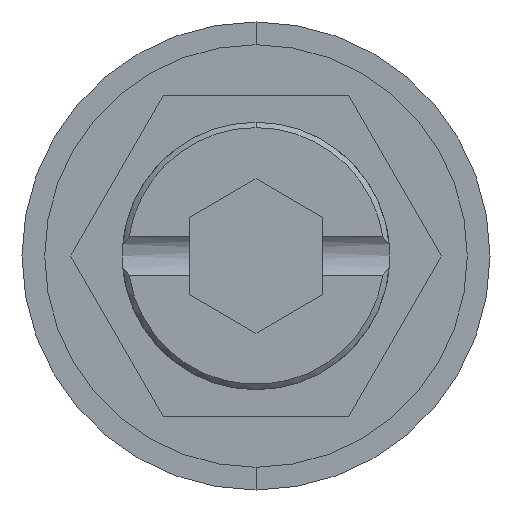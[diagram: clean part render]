
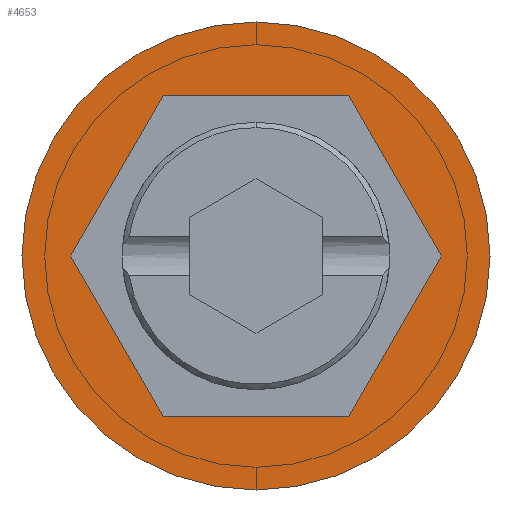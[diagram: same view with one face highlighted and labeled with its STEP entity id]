
A CAD part, front view. The second image highlights one B-rep face of the part: STEP entity #4653.
In plain terms, the highlighted planar face has unit normal (0, -1, 0).
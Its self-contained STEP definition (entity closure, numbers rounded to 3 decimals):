
#229 = EDGE_CURVE ( 'NONE', #4677, #525, #617, .T. ) ;
#328 = DIRECTION ( 'NONE',  ( 0., -1., 0. ) ) ;
#341 = CARTESIAN_POINT ( 'NONE',  ( 6.928, 0., 0. ) ) ;
#351 = EDGE_CURVE ( 'NONE', #2325, #5158, #1243, .T. ) ;
#445 = VECTOR ( 'NONE', #5753, 1000. ) ;
#525 = VERTEX_POINT ( 'NONE', #1136 ) ;
#579 = EDGE_CURVE ( 'NONE', #2489, #3838, #940, .T. ) ;
#606 = CARTESIAN_POINT ( 'NONE',  ( 0., 0., 0. ) ) ;
#612 = DIRECTION ( 'NONE',  ( 0., -1., 0. ) ) ;
#617 = CIRCLE ( 'NONE', #709, 8.75 ) ;
#618 = DIRECTION ( 'NONE',  ( 0., 0., -1. ) ) ;
#626 = DIRECTION ( 'NONE',  ( -0.5, 0., -0.866 ) ) ;
#699 = CARTESIAN_POINT ( 'NONE',  ( -3.464, 0., 6. ) ) ;
#709 = AXIS2_PLACEMENT_3D ( 'NONE', #606, #612, #618 ) ;
#728 = FACE_BOUND ( 'NONE', #2286, .T. ) ;
#757 = ORIENTED_EDGE ( 'NONE', *, *, #2624, .F. ) ;
#940 = LINE ( 'NONE', #1380, #1081 ) ;
#1043 = AXIS2_PLACEMENT_3D ( 'NONE', #3083, #328, #3539 ) ;
#1081 = VECTOR ( 'NONE', #1386, 1000. ) ;
#1136 = CARTESIAN_POINT ( 'NONE',  ( 0., 0., 8.75 ) ) ;
#1175 = AXIS2_PLACEMENT_3D ( 'NONE', #1197, #1671, #4821 ) ;
#1197 = CARTESIAN_POINT ( 'NONE',  ( 0., 0., 0. ) ) ;
#1243 = LINE ( 'NONE', #699, #5754 ) ;
#1277 = ORIENTED_EDGE ( 'NONE', *, *, #579, .F. ) ;
#1380 = CARTESIAN_POINT ( 'NONE',  ( 3.464, 0., -6. ) ) ;
#1386 = DIRECTION ( 'NONE',  ( 0.5, 0., 0.866 ) ) ;
#1528 = CARTESIAN_POINT ( 'NONE',  ( 3.464, 0., 6. ) ) ;
#1633 = EDGE_LOOP ( 'NONE', ( #2647, #4822 ) ) ;
#1643 = ORIENTED_EDGE ( 'NONE', *, *, #4829, .F. ) ;
#1671 = DIRECTION ( 'NONE',  ( 0., -1., 0. ) ) ;
#1772 = EDGE_CURVE ( 'NONE', #5158, #3786, #2891, .T. ) ;
#1987 = DIRECTION ( 'NONE',  ( -1., 0., 0. ) ) ;
#2233 = VECTOR ( 'NONE', #1987, 1000. ) ;
#2286 = EDGE_LOOP ( 'NONE', ( #5507, #4475, #3566, #757, #1643, #1277 ) ) ;
#2302 = CARTESIAN_POINT ( 'NONE',  ( -3.464, 0., -6. ) ) ;
#2325 = VERTEX_POINT ( 'NONE', #5553 ) ;
#2440 = CARTESIAN_POINT ( 'NONE',  ( 3.464, 0., -6. ) ) ;
#2489 = VERTEX_POINT ( 'NONE', #2440 ) ;
#2596 = CARTESIAN_POINT ( 'NONE',  ( 0., 0., -8.75 ) ) ;
#2624 = EDGE_CURVE ( 'NONE', #5024, #2325, #5528, .T. ) ;
#2647 = ORIENTED_EDGE ( 'NONE', *, *, #229, .T. ) ;
#2776 = CARTESIAN_POINT ( 'NONE',  ( -6.928, 0., 0. ) ) ;
#2884 = LINE ( 'NONE', #341, #445 ) ;
#2891 = LINE ( 'NONE', #4098, #4970 ) ;
#3083 = CARTESIAN_POINT ( 'NONE',  ( 0., 0., 0. ) ) ;
#3154 = EDGE_CURVE ( 'NONE', #525, #4677, #3380, .T. ) ;
#3316 = FACE_OUTER_BOUND ( 'NONE', #1633, .T. ) ;
#3380 = CIRCLE ( 'NONE', #1043, 8.75 ) ;
#3539 = DIRECTION ( 'NONE',  ( 0., 0., -1. ) ) ;
#3566 = ORIENTED_EDGE ( 'NONE', *, *, #351, .F. ) ;
#3681 = DIRECTION ( 'NONE',  ( 1., 0., 0. ) ) ;
#3786 = VERTEX_POINT ( 'NONE', #5011 ) ;
#3838 = VERTEX_POINT ( 'NONE', #5502 ) ;
#3943 = PLANE ( 'NONE',  #1175 ) ;
#4044 = DIRECTION ( 'NONE',  ( 0.5, 0., -0.866 ) ) ;
#4098 = CARTESIAN_POINT ( 'NONE',  ( -6.928, 0., 0. ) ) ;
#4475 = ORIENTED_EDGE ( 'NONE', *, *, #1772, .F. ) ;
#4653 = ADVANCED_FACE ( 'NONE', ( #728, #3316 ), #3943, .T. ) ;
#4677 = VERTEX_POINT ( 'NONE', #2596 ) ;
#4821 = DIRECTION ( 'NONE',  ( 0., 0., -1. ) ) ;
#4822 = ORIENTED_EDGE ( 'NONE', *, *, #3154, .T. ) ;
#4829 = EDGE_CURVE ( 'NONE', #3838, #5024, #2884, .T. ) ;
#4970 = VECTOR ( 'NONE', #4044, 1000. ) ;
#5011 = CARTESIAN_POINT ( 'NONE',  ( -3.464, 0., -6. ) ) ;
#5024 = VERTEX_POINT ( 'NONE', #5363 ) ;
#5158 = VERTEX_POINT ( 'NONE', #2776 ) ;
#5161 = EDGE_CURVE ( 'NONE', #3786, #2489, #5735, .T. ) ;
#5363 = CARTESIAN_POINT ( 'NONE',  ( 3.464, 0., 6. ) ) ;
#5502 = CARTESIAN_POINT ( 'NONE',  ( 6.928, 0., 0. ) ) ;
#5507 = ORIENTED_EDGE ( 'NONE', *, *, #5161, .F. ) ;
#5528 = LINE ( 'NONE', #1528, #2233 ) ;
#5553 = CARTESIAN_POINT ( 'NONE',  ( -3.464, 0., 6. ) ) ;
#5590 = VECTOR ( 'NONE', #3681, 1000. ) ;
#5735 = LINE ( 'NONE', #2302, #5590 ) ;
#5753 = DIRECTION ( 'NONE',  ( -0.5, 0., 0.866 ) ) ;
#5754 = VECTOR ( 'NONE', #626, 1000. ) ;
